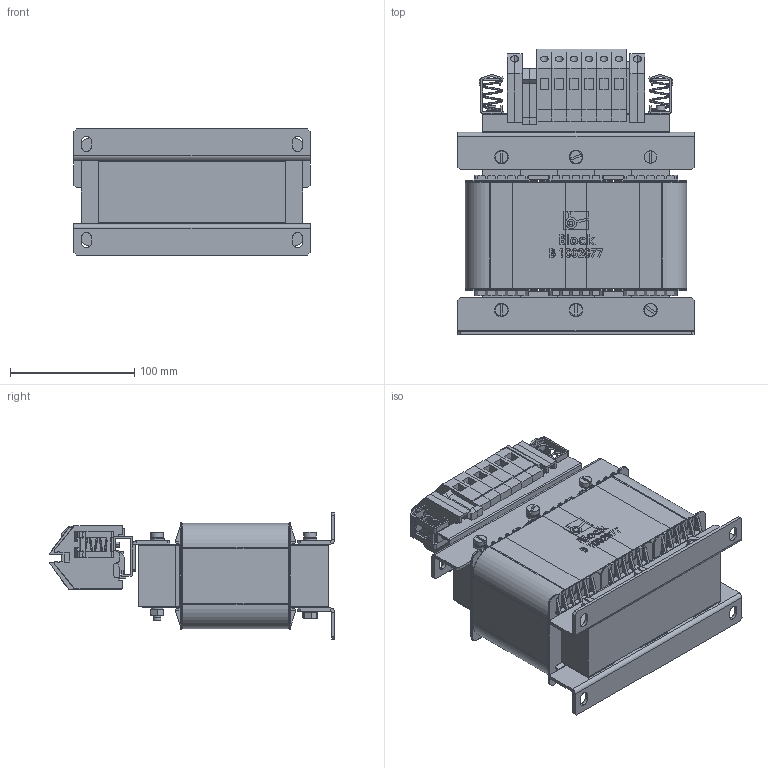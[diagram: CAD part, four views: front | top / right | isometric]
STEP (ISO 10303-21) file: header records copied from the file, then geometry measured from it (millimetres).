
FILE_DESCRIPTION (( 'STEP AP214' ), '1' );
FILE_NAME ('B 1002077.STEP', '2012-01-31T14:04:19', ( 'edv' ), ( 'Microsoft' ), 'SwSTEP 2.0', 'SolidWorks 2010', '' );
FILE_SCHEMA (( 'AUTOMOTIVE_DESIGN' ));
Length unit declared in the file: millimetre
Products named in the file (20): TS32x150; D56; +6230-0005; UI90-51,5-oD; 3UI90-51,5 Luftspalt 3mm; Wickel 3UI 90_51; Nomexabdeckung f黵 B 1002077; RK16; AP16; M6DIN934; M6 Scheibe; M6x65-DIN84; Isolierbuchse M6_M05; SL 16_32; RK 2,5-4_TS32; Baugruppe Schirmklemme KLBU 4-13,5; Teil 2 f黵 Schirmklemme KLBU 4-13,5; Teil 1 f黵 Schirmklemme KLBU 4-13,5; Teil 3 f黵 Schirmklemme KLBU 4-13,5; B 1002077
Assembly tree (63 placements, depth 3):
  B 1002077
    M6DIN934  x6
    M6 Scheibe  x12
    M6x65-DIN84  x6
    SL 16_32  x2
    Baugruppe Schirmklemme KLBU 4-13,5  x2
      Teil 2 f黵 Schirmklemme KLBU 4-13,5
      Teil 3 f黵 Schirmklemme KLBU 4-13,5
      Teil 1 f黵 Schirmklemme KLBU 4-13,5
    Wickel 3UI 90_51  x3
    +6230-0005  x3
    D56  x6
    RK 2,5-4_TS32  x2
    RK16  x6
    Isolierbuchse M6_M05  x5
    3UI90-51,5 Luftspalt 3mm
    Nomexabdeckung f黵 B 1002077
    UI90-51,5-oD  x3
    TS32x150
    AP16
Bounding box: 190 x 230 x 101.5 mm (x, y, z)
Volume: 2015905.1 mm3; surface area: 706778.2 mm2
Topology: 66 solids, 66 shells, 2999 faces, 7439 edges, 4646 vertices
Faces by surface type: plane 1752, cylinder 844, torus 312, bspline 79, cone 12
Entity records: 46567 total; most frequent: CARTESIAN_POINT 12785, ORIENTED_EDGE 6112, DIRECTION 6026, EDGE_CURVE 3056, LINE 2148, VECTOR 2148, AXIS2_PLACEMENT_3D 1939, VERTEX_POINT 1918
